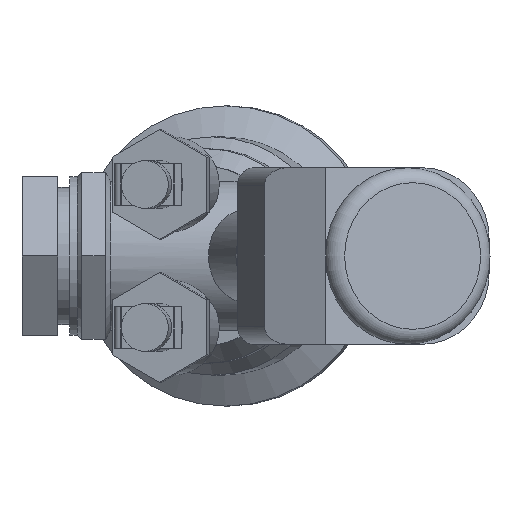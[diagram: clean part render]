
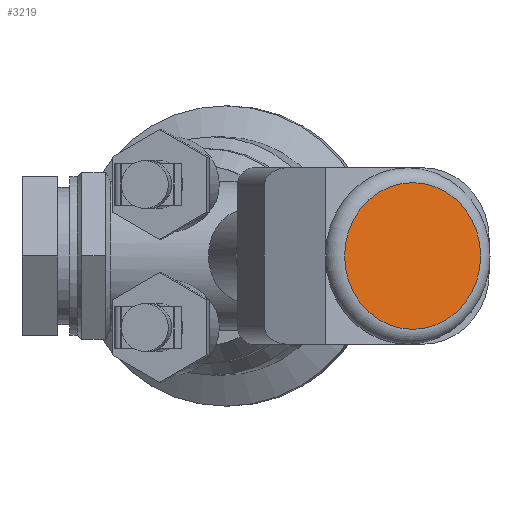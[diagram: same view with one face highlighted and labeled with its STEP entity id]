
A CAD part, front view. The second image highlights one B-rep face of the part: STEP entity #3219.
In plain terms, the highlighted planar face has unit normal (0.375, -0.927, 0).
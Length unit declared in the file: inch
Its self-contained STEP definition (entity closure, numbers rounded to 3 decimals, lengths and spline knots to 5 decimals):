
#163=CIRCLE('',#3563,0.61577);
#164=CIRCLE('',#3564,0.61577);
#354=FACE_OUTER_BOUND('',#540,.T.);
#540=EDGE_LOOP('',(#2233,#2234));
#1315=VERTEX_POINT('',#5364);
#1316=VERTEX_POINT('',#5365);
#1662=EDGE_CURVE('',#1315,#1316,#163,.T.);
#1663=EDGE_CURVE('',#1316,#1315,#164,.T.);
#2233=ORIENTED_EDGE('',*,*,#1662,.T.);
#2234=ORIENTED_EDGE('',*,*,#1663,.T.);
#2896=PLANE('',#3566);
#3219=ADVANCED_FACE('',(#354),#2896,.T.);
#3563=AXIS2_PLACEMENT_3D('',#5366,#4115,#4116);
#3564=AXIS2_PLACEMENT_3D('',#5367,#4117,#4118);
#3566=AXIS2_PLACEMENT_3D('',#5369,#4121,#4122);
#4115=DIRECTION('center_axis',(0.375,-0.927,0.));
#4116=DIRECTION('ref_axis',(0.927,0.375,0.));
#4117=DIRECTION('center_axis',(0.375,-0.927,0.));
#4118=DIRECTION('ref_axis',(0.927,0.375,0.));
#4121=DIRECTION('center_axis',(0.375,-0.927,0.));
#4122=DIRECTION('ref_axis',(0.,0.,-1.));
#5364=CARTESIAN_POINT('',(1.03314,-4.2009,0.));
#5365=CARTESIAN_POINT('',(1.60408,-3.97023,0.61577));
#5366=CARTESIAN_POINT('Origin',(1.60408,-3.97023,0.));
#5367=CARTESIAN_POINT('Origin',(1.60408,-3.97023,0.));
#5369=CARTESIAN_POINT('Origin',(1.60408,-3.97023,0.));
